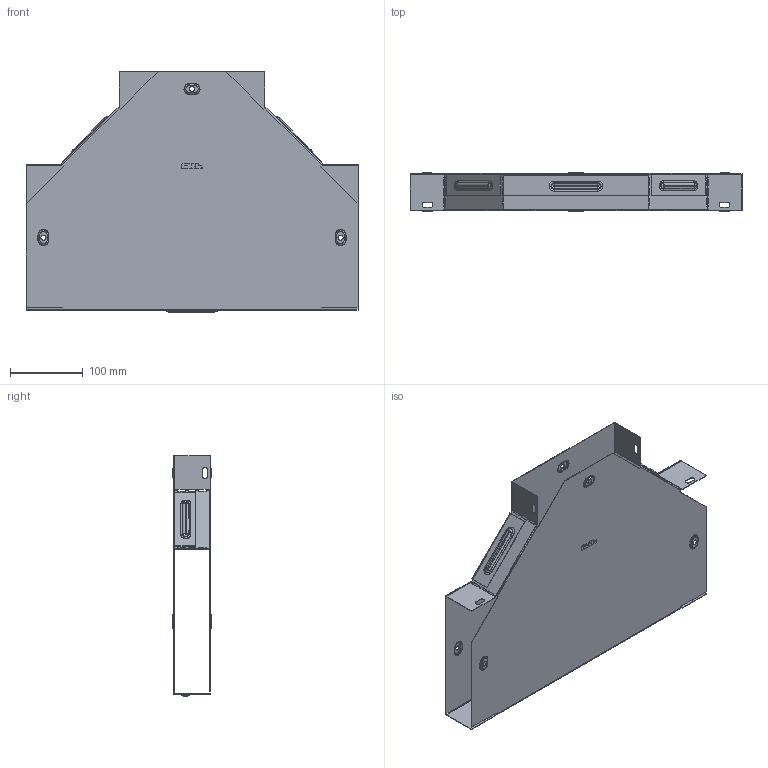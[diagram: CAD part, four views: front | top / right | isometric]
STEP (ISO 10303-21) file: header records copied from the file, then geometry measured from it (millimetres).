
FILE_DESCRIPTION (( 'STEP AP214' ), '1' );
FILE_NAME ('t5020008_捘.STEP', '2019-06-10T08:13:18', ( '砐錪賧瘔蠈錪 Windows' ), ( '' ), 'SwSTEP 2.0', 'SolidWorks 2018', '' );
FILE_SCHEMA (( 'AUTOMOTIVE_DESIGN' ));
Length unit declared in the file: millimetre
Products named in the file (1): t5020008_捘
Bounding box: 456.4 x 53.8 x 331 mm (x, y, z)
Volume: 238753.3 mm3; surface area: 600688.2 mm2
Topology: 2 solids, 2 shells, 626 faces, 1722 edges, 1112 vertices
Faces by surface type: plane 334, cylinder 178, torus 96, bspline 18
Entity records: 20939 total; most frequent: CARTESIAN_POINT 4541, ORIENTED_EDGE 3444, DIRECTION 3404, EDGE_CURVE 1722, VECTOR 1186, LINE 1186, VERTEX_POINT 1112, AXIS2_PLACEMENT_3D 1109
